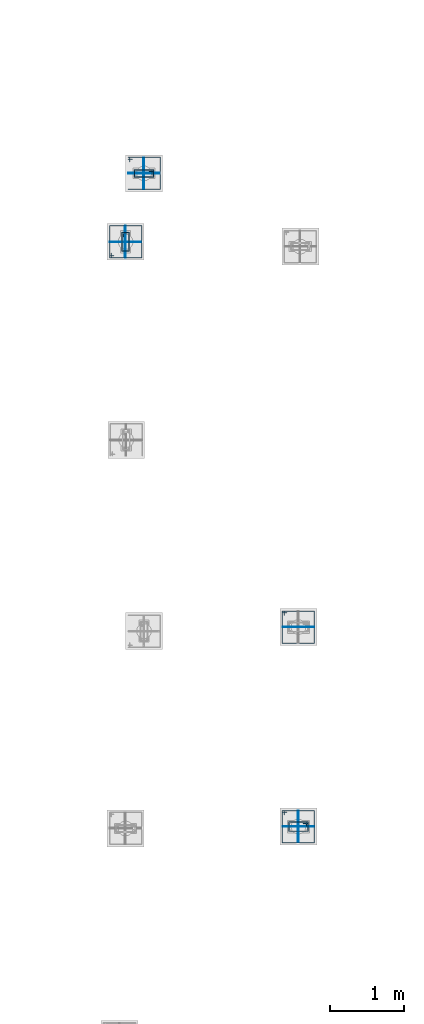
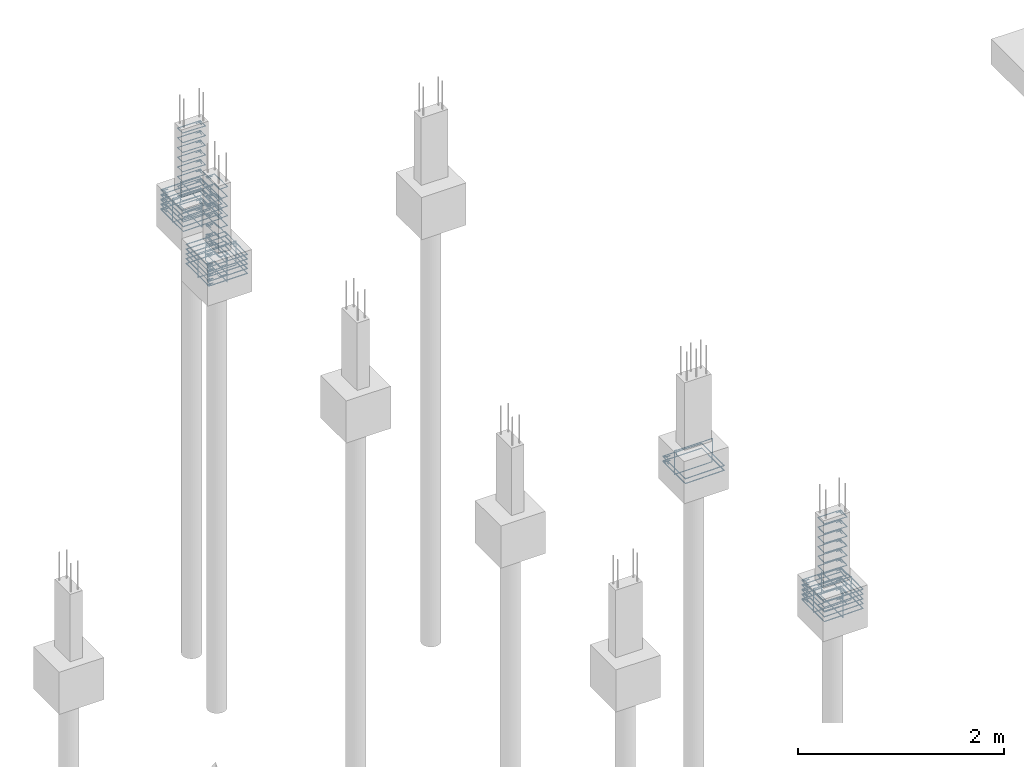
# One storey, part 113 of 119: 54 reinforcing bars.
"""IFC4 building model written with IfcOpenShell, lengths in centimetres."""

from ifc_helpers import new_model, entity, si_unit, derived_unit, frame, origin_with_axes, place, context, project, spatial, source, transform, mapped, element, save


model = new_model("IFC4")

# Units and contexts
model_context = context("Model", 3, precision=1e-05, world=origin_with_axes(), identifier="Body")
ifc_project = project(units=[si_unit("LENGTHUNIT", "METRE", prefix="CENTI"), si_unit("VOLUMEUNIT", "CUBIC_METRE"), si_unit("AREAUNIT", "SQUARE_METRE"), si_unit("POWERUNIT", "WATT"), si_unit("LUMINOUSFLUXUNIT", "LUMEN"), si_unit("ELECTRICCURRENTUNIT", "AMPERE"), si_unit("PRESSUREUNIT", "PASCAL", prefix="KILO"), si_unit("MASSUNIT", "GRAM", prefix="KILO"), si_unit("PLANEANGLEUNIT", "RADIAN"), derived_unit("VOLUMETRICFLOWRATEUNIT", [(si_unit("LENGTHUNIT", "METRE"), 3), (si_unit("TIMEUNIT", "SECOND"), -1)])], contexts=[model_context])

# Site, building, storey
site_placement = place(None, frame((-4000.0, 0.0, 0.0), z_axis=(0.0, 0.0, 1.0), x_axis=(1.0, 0.0, 0.0)))
site = spatial("IfcSite", under=ifc_project, at=site_placement, Name="PADRÃO")
building_placement = place(site_placement, frame((0.0, 0.0, -14.0)))
building = spatial("IfcBuilding", under=site, at=building_placement, Name="CRECHE PRÉ-ESCOLA TIPO 2")
storey_placement = place(building_placement, origin_with_axes())
storey = spatial("IfcBuildingStorey", under=building, at=storey_placement, Name="FUNDAÇÃO", CompositionType="ELEMENT", Elevation=-14.0)

# Reinforcing bars
shared_shape_1 = source(origin_with_axes(), model_context, "Body", "AdvancedSweptSolid", [
    entity("IfcSweptDiskSolid", entity("IfcCompositeCurve", [entity("IfcCompositeCurveSegment", "CONTINUOUS", True, entity("IfcPolyline", [entity("IfcCartesianPoint", [4.25, 21.75, 0.0]), entity("IfcCartesianPoint", [4.25, 27.75, 0.0])])), entity("IfcCompositeCurveSegment", "CONTINUOUS", True, entity("IfcPolyline", [entity("IfcCartesianPoint", [4.25, 27.75, 0.0]), entity("IfcCartesianPoint", [2.25, 27.75, 0.0])])), entity("IfcCompositeCurveSegment", "CONTINUOUS", True, entity("IfcPolyline", [entity("IfcCartesianPoint", [2.25, 27.75, 0.0]), entity("IfcCartesianPoint", [2.25, 2.25, 0.0])])), entity("IfcCompositeCurveSegment", "CONTINUOUS", True, entity("IfcPolyline", [entity("IfcCartesianPoint", [2.25, 2.25, 0.0]), entity("IfcCartesianPoint", [14.75, 2.25, 0.0])])), entity("IfcCompositeCurveSegment", "CONTINUOUS", True, entity("IfcPolyline", [entity("IfcCartesianPoint", [14.75, 2.25, 0.0]), entity("IfcCartesianPoint", [14.75, 27.75, -0.5])])), entity("IfcCompositeCurveSegment", "CONTINUOUS", True, entity("IfcPolyline", [entity("IfcCartesianPoint", [14.75, 27.75, -0.5]), entity("IfcCartesianPoint", [2.25, 27.75, -0.5])])), entity("IfcCompositeCurveSegment", "CONTINUOUS", True, entity("IfcPolyline", [entity("IfcCartesianPoint", [2.25, 27.75, -0.5]), entity("IfcCartesianPoint", [2.25, 25.75, -0.5])])), entity("IfcCompositeCurveSegment", "CONTINUOUS", True, entity("IfcPolyline", [entity("IfcCartesianPoint", [2.25, 25.75, -0.5]), entity("IfcCartesianPoint", [8.25, 25.75, -0.5])]))], False), 0.25),
])
for number, where, z_axis, x_axis, name in (
    (1, (3357.5, 3208.52, -51.75), (0.0, 0.0, 1.0), (0.0, -1.0, 0.0), "P56 - Estribo"),
    (2, (3357.5, 3208.52, -5.75), (0.0, 0.0, 1.0), (0.0, -1.0, 0.0), "P56 - Estribo"),
    (3, (3357.5, 3208.52, -17.25), (0.0, 0.0, 1.0), (0.0, -1.0, 0.0), "P56 - Estribo"),
    (4, (3357.5, 3208.52, -28.75), (0.0, 0.0, 1.0), (0.0, -1.0, 0.0), "P56 - Estribo"),
    (5, (3357.5, 3208.52, -40.25), (0.0, 0.0, 1.0), (0.0, -1.0, 0.0), "P56 - Estribo"),
    (6, (3357.5, 3208.52, -74.75), (0.0, 0.0, 1.0), (0.0, -1.0, 0.0), "P56 - Estribo"),
    (7, (3357.5, 3208.52, -63.25), (0.0, 0.0, 1.0), (0.0, -1.0, 0.0), "P56 - Estribo"),
    (8, (3357.5, 3208.52, -86.25), (0.0, 0.0, 1.0), (0.0, -1.0, 0.0), "P56 - Estribo"),
    (9, (3357.5, 3208.52, -97.75), (0.0, 0.0, 1.0), (0.0, -1.0, 0.0), "P56 - Estribo"),
    (10, (3357.5, 3208.52, -109.25), (0.0, 0.0, 1.0), (0.0, -1.0, 0.0), "P56 - Estribo"),
):
    element("IfcReinforcingBar", number, at=place(storey_placement, frame(where, z_axis=z_axis, x_axis=x_axis)), inside=storey, Name=name, BarLength=0.0, CrossSectionArea=1.9634954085e-05, NominalDiameter=0.5, PredefinedType="MAIN", context=model_context, shape_type="MappedRepresentation", body=[
        mapped(shared_shape_1, transform((0.0, 0.0, 0.0), scale=1.0)),
    ])
shared_shape_2 = source(origin_with_axes(), model_context, "Body", "AdvancedSweptSolid", [
    entity("IfcSweptDiskSolid", entity("IfcCompositeCurve", [entity("IfcCompositeCurveSegment", "CONTINUOUS", True, entity("IfcPolyline", [entity("IfcCartesianPoint", [3353.335, 3215.445, 0.0]), entity("IfcCartesianPoint", [3353.335, 3221.705, 0.0])])), entity("IfcCompositeCurveSegment", "CONTINUOUS", True, entity("IfcPolyline", [entity("IfcCartesianPoint", [3353.335, 3221.705, 0.0]), entity("IfcCartesianPoint", [3350.815, 3221.705, 0.0])])), entity("IfcCompositeCurveSegment", "CONTINUOUS", True, entity("IfcPolyline", [entity("IfcCartesianPoint", [3350.815, 3221.705, 0.0]), entity("IfcCartesianPoint", [3350.815, 3178.335, 0.0])])), entity("IfcCompositeCurveSegment", "CONTINUOUS", True, entity("IfcPolyline", [entity("IfcCartesianPoint", [3350.815, 3178.335, 0.0]), entity("IfcCartesianPoint", [3394.185, 3178.335, 0.63])])), entity("IfcCompositeCurveSegment", "CONTINUOUS", True, entity("IfcPolyline", [entity("IfcCartesianPoint", [3394.185, 3178.335, 0.63]), entity("IfcCartesianPoint", [3394.185, 3221.705, 0.63])])), entity("IfcCompositeCurveSegment", "CONTINUOUS", True, entity("IfcPolyline", [entity("IfcCartesianPoint", [3394.185, 3221.705, 0.63]), entity("IfcCartesianPoint", [3350.815, 3221.705, 0.63])])), entity("IfcCompositeCurveSegment", "CONTINUOUS", True, entity("IfcPolyline", [entity("IfcCartesianPoint", [3350.815, 3221.705, 0.63]), entity("IfcCartesianPoint", [3350.815, 3219.185, 0.63])])), entity("IfcCompositeCurveSegment", "CONTINUOUS", True, entity("IfcPolyline", [entity("IfcCartesianPoint", [3350.815, 3219.185, 0.63]), entity("IfcCartesianPoint", [3357.075, 3219.185, 0.63])]))], False), 0.315),
])
for number, where, z_axis, x_axis, name in (
    (11, (0.0, 0.0, -86.575), (0.0, 0.0, 1.0), (1.0, 0.0, 0.0), "P56 - Blocos (estribos)"),
    (12, (0.0, 0.0, -92.225), (0.0, 0.0, 1.0), (1.0, 0.0, 0.0), "P56 - Blocos (estribos)"),
    (13, (0.0, 0.0, -97.875), (0.0, 0.0, 1.0), (1.0, 0.0, 0.0), "P56 - Blocos (estribos)"),
    (14, (0.0, 0.0, -109.175), (0.0, 0.0, 1.0), (1.0, 0.0, 0.0), "P56 - Blocos (estribos)"),
    (15, (0.0, 0.0, -103.525), (0.0, 0.0, 1.0), (1.0, 0.0, 0.0), "P56 - Blocos (estribos)"),
):
    element("IfcReinforcingBar", number, at=place(storey_placement, frame(where, z_axis=z_axis, x_axis=x_axis)), inside=storey, Name=name, BarLength=0.0, CrossSectionArea=3.1172453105e-05, NominalDiameter=0.63, PredefinedType="MAIN", context=model_context, shape_type="MappedRepresentation", body=[
        mapped(shared_shape_2, transform((0.0, 0.0, 0.0), scale=1.0)),
    ])
shared_shape_3 = source(origin_with_axes(), model_context, "Body", "AdvancedSweptSolid", [
    entity("IfcSweptDiskSolid", entity("IfcCompositeCurve", [entity("IfcCompositeCurveSegment", "CONTINUOUS", True, entity("IfcPolyline", [entity("IfcCartesianPoint", [-15.12, -12.0, 0.0]), entity("IfcCartesianPoint", [-21.12, -12.0, 0.0])])), entity("IfcCompositeCurveSegment", "CONTINUOUS", True, entity("IfcPolyline", [entity("IfcCartesianPoint", [-21.12, -12.0, 0.0]), entity("IfcCartesianPoint", [-21.12, -14.0, 0.0])])), entity("IfcCompositeCurveSegment", "CONTINUOUS", True, entity("IfcPolyline", [entity("IfcCartesianPoint", [-21.12, -14.0, 0.0]), entity("IfcCartesianPoint", [21.12, -14.0, 0.0])])), entity("IfcCompositeCurveSegment", "CONTINUOUS", True, entity("IfcPolyline", [entity("IfcCartesianPoint", [21.12, -14.0, 0.0]), entity("IfcCartesianPoint", [21.12, 14.0, 0.5])])), entity("IfcCompositeCurveSegment", "CONTINUOUS", True, entity("IfcPolyline", [entity("IfcCartesianPoint", [21.12, 14.0, 0.5]), entity("IfcCartesianPoint", [-21.12, 14.0, 0.5])])), entity("IfcCompositeCurveSegment", "CONTINUOUS", True, entity("IfcPolyline", [entity("IfcCartesianPoint", [-21.12, 14.0, 0.5]), entity("IfcCartesianPoint", [-21.12, -14.0, 0.5])])), entity("IfcCompositeCurveSegment", "CONTINUOUS", True, entity("IfcPolyline", [entity("IfcCartesianPoint", [-21.12, -14.0, 0.5]), entity("IfcCartesianPoint", [-19.12, -14.0, 0.5])])), entity("IfcCompositeCurveSegment", "CONTINUOUS", True, entity("IfcPolyline", [entity("IfcCartesianPoint", [-19.12, -14.0, 0.5]), entity("IfcCartesianPoint", [-19.12, -8.0, 0.5])]))], False), 0.25),
])
reinforcing_bar_1_placement = place(storey_placement, frame((3372.5, 3200.02, -97.75), z_axis=(0.0, 1.0, 0.0), x_axis=(1.0, 0.0, 0.0)))
element("IfcReinforcingBar", 16, at=reinforcing_bar_1_placement, inside=storey, Name="P56 - Blocos (estribos)", BarLength=0.0, CrossSectionArea=1.9634954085e-05, NominalDiameter=0.5, PredefinedType="MAIN", context=model_context, shape_type="MappedRepresentation", body=[
    mapped(shared_shape_3, transform((0.0, 0.0, 0.0), scale=1.0)),
])
shared_shape_4 = source(origin_with_axes(), model_context, "Body", "AdvancedSweptSolid", [
    entity("IfcSweptDiskSolid", entity("IfcCompositeCurve", [entity("IfcCompositeCurveSegment", "CONTINUOUS", True, entity("IfcPolyline", [entity("IfcCartesianPoint", [-15.12, -12.0, 0.0]), entity("IfcCartesianPoint", [-21.12, -12.0, 0.0])])), entity("IfcCompositeCurveSegment", "CONTINUOUS", True, entity("IfcPolyline", [entity("IfcCartesianPoint", [-21.12, -12.0, 0.0]), entity("IfcCartesianPoint", [-21.12, -14.0, 0.0])])), entity("IfcCompositeCurveSegment", "CONTINUOUS", True, entity("IfcPolyline", [entity("IfcCartesianPoint", [-21.12, -14.0, 0.0]), entity("IfcCartesianPoint", [21.12, -14.0, 0.0])])), entity("IfcCompositeCurveSegment", "CONTINUOUS", True, entity("IfcPolyline", [entity("IfcCartesianPoint", [21.12, -14.0, 0.0]), entity("IfcCartesianPoint", [21.12, 14.0, 0.5])])), entity("IfcCompositeCurveSegment", "CONTINUOUS", True, entity("IfcPolyline", [entity("IfcCartesianPoint", [21.12, 14.0, 0.5]), entity("IfcCartesianPoint", [-21.12, 14.0, 0.5])])), entity("IfcCompositeCurveSegment", "CONTINUOUS", True, entity("IfcPolyline", [entity("IfcCartesianPoint", [-21.12, 14.0, 0.5]), entity("IfcCartesianPoint", [-21.12, -14.0, 0.5])])), entity("IfcCompositeCurveSegment", "CONTINUOUS", True, entity("IfcPolyline", [entity("IfcCartesianPoint", [-21.12, -14.0, 0.5]), entity("IfcCartesianPoint", [-19.12, -14.0, 0.5])])), entity("IfcCompositeCurveSegment", "CONTINUOUS", True, entity("IfcPolyline", [entity("IfcCartesianPoint", [-19.12, -14.0, 0.5]), entity("IfcCartesianPoint", [-19.12, -8.0, 0.5])]))], False), 0.25),
])
reinforcing_bar_2_placement = place(storey_placement, frame((3372.5, 3200.02, -97.75), z_axis=(-1.0, 0.0, 0.0), x_axis=(0.0, 1.0, 0.0)))
element("IfcReinforcingBar", 17, at=reinforcing_bar_2_placement, inside=storey, Name="P56 - Blocos (estribos)", BarLength=0.0, CrossSectionArea=1.9634954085e-05, NominalDiameter=0.5, PredefinedType="MAIN", context=model_context, shape_type="MappedRepresentation", body=[
    mapped(shared_shape_4, transform((0.0, 0.0, 0.0), scale=1.0)),
])
shared_shape_5 = source(origin_with_axes(), model_context, "Body", "AdvancedSweptSolid", [
    entity("IfcSweptDiskSolid", entity("IfcCompositeCurve", [entity("IfcCompositeCurveSegment", "CONTINUOUS", True, entity("IfcPolyline", [entity("IfcCartesianPoint", [3353.335, 3485.445, 0.0]), entity("IfcCartesianPoint", [3353.335, 3491.705, 0.0])])), entity("IfcCompositeCurveSegment", "CONTINUOUS", True, entity("IfcPolyline", [entity("IfcCartesianPoint", [3353.335, 3491.705, 0.0]), entity("IfcCartesianPoint", [3350.815, 3491.705, 0.0])])), entity("IfcCompositeCurveSegment", "CONTINUOUS", True, entity("IfcPolyline", [entity("IfcCartesianPoint", [3350.815, 3491.705, 0.0]), entity("IfcCartesianPoint", [3350.815, 3448.335, 0.0])])), entity("IfcCompositeCurveSegment", "CONTINUOUS", True, entity("IfcPolyline", [entity("IfcCartesianPoint", [3350.815, 3448.335, 0.0]), entity("IfcCartesianPoint", [3394.185, 3448.335, 0.63])])), entity("IfcCompositeCurveSegment", "CONTINUOUS", True, entity("IfcPolyline", [entity("IfcCartesianPoint", [3394.185, 3448.335, 0.63]), entity("IfcCartesianPoint", [3394.185, 3491.705, 0.63])])), entity("IfcCompositeCurveSegment", "CONTINUOUS", True, entity("IfcPolyline", [entity("IfcCartesianPoint", [3394.185, 3491.705, 0.63]), entity("IfcCartesianPoint", [3350.815, 3491.705, 0.63])])), entity("IfcCompositeCurveSegment", "CONTINUOUS", True, entity("IfcPolyline", [entity("IfcCartesianPoint", [3350.815, 3491.705, 0.63]), entity("IfcCartesianPoint", [3350.815, 3489.185, 0.63])])), entity("IfcCompositeCurveSegment", "CONTINUOUS", True, entity("IfcPolyline", [entity("IfcCartesianPoint", [3350.815, 3489.185, 0.63]), entity("IfcCartesianPoint", [3357.075, 3489.185, 0.63])]))], False), 0.315),
])
for number, where, z_axis, x_axis, name in (
    (18, (0.0, 0.0, -103.525), (0.0, 0.0, 1.0), (1.0, 0.0, 0.0), "P45 - Blocos (estribos)"),
    (19, (0.0, 0.0, -109.175), (0.0, 0.0, 1.0), (1.0, 0.0, 0.0), "P45 - Blocos (estribos)"),
):
    element("IfcReinforcingBar", number, at=place(storey_placement, frame(where, z_axis=z_axis, x_axis=x_axis)), inside=storey, Name=name, BarLength=0.0, CrossSectionArea=3.1172453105e-05, NominalDiameter=0.63, PredefinedType="MAIN", context=model_context, shape_type="MappedRepresentation", body=[
        mapped(shared_shape_5, transform((0.0, 0.0, 0.0), scale=1.0)),
    ])
shared_shape_6 = source(origin_with_axes(), model_context, "Body", "AdvancedSweptSolid", [
    entity("IfcSweptDiskSolid", entity("IfcCompositeCurve", [entity("IfcCompositeCurveSegment", "CONTINUOUS", True, entity("IfcPolyline", [entity("IfcCartesianPoint", [-15.12, -12.0, 0.0]), entity("IfcCartesianPoint", [-21.12, -12.0, 0.0])])), entity("IfcCompositeCurveSegment", "CONTINUOUS", True, entity("IfcPolyline", [entity("IfcCartesianPoint", [-21.12, -12.0, 0.0]), entity("IfcCartesianPoint", [-21.12, -14.0, 0.0])])), entity("IfcCompositeCurveSegment", "CONTINUOUS", True, entity("IfcPolyline", [entity("IfcCartesianPoint", [-21.12, -14.0, 0.0]), entity("IfcCartesianPoint", [21.12, -14.0, 0.0])])), entity("IfcCompositeCurveSegment", "CONTINUOUS", True, entity("IfcPolyline", [entity("IfcCartesianPoint", [21.12, -14.0, 0.0]), entity("IfcCartesianPoint", [21.12, 14.0, 0.5])])), entity("IfcCompositeCurveSegment", "CONTINUOUS", True, entity("IfcPolyline", [entity("IfcCartesianPoint", [21.12, 14.0, 0.5]), entity("IfcCartesianPoint", [-21.12, 14.0, 0.5])])), entity("IfcCompositeCurveSegment", "CONTINUOUS", True, entity("IfcPolyline", [entity("IfcCartesianPoint", [-21.12, 14.0, 0.5]), entity("IfcCartesianPoint", [-21.12, -14.0, 0.5])])), entity("IfcCompositeCurveSegment", "CONTINUOUS", True, entity("IfcPolyline", [entity("IfcCartesianPoint", [-21.12, -14.0, 0.5]), entity("IfcCartesianPoint", [-19.12, -14.0, 0.5])])), entity("IfcCompositeCurveSegment", "CONTINUOUS", True, entity("IfcPolyline", [entity("IfcCartesianPoint", [-19.12, -14.0, 0.5]), entity("IfcCartesianPoint", [-19.12, -8.0, 0.5])]))], False), 0.25),
])
reinforcing_bar_3_placement = place(storey_placement, frame((3372.5, 3470.02, -97.75), z_axis=(0.0, 1.0, 0.0), x_axis=(1.0, 0.0, 0.0)))
element("IfcReinforcingBar", 20, at=reinforcing_bar_3_placement, inside=storey, Name="P45 - Blocos (estribos)", BarLength=0.0, CrossSectionArea=1.9634954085e-05, NominalDiameter=0.5, PredefinedType="MAIN", context=model_context, shape_type="MappedRepresentation", body=[
    mapped(shared_shape_6, transform((0.0, 0.0, 0.0), scale=1.0)),
])
shared_shape_7 = source(origin_with_axes(), model_context, "Body", "AdvancedSweptSolid", [
    entity("IfcSweptDiskSolid", entity("IfcCompositeCurve", [entity("IfcCompositeCurveSegment", "CONTINUOUS", True, entity("IfcPolyline", [entity("IfcCartesianPoint", [4.25, 21.75, 0.0]), entity("IfcCartesianPoint", [4.25, 27.75, 0.0])])), entity("IfcCompositeCurveSegment", "CONTINUOUS", True, entity("IfcPolyline", [entity("IfcCartesianPoint", [4.25, 27.75, 0.0]), entity("IfcCartesianPoint", [2.25, 27.75, 0.0])])), entity("IfcCompositeCurveSegment", "CONTINUOUS", True, entity("IfcPolyline", [entity("IfcCartesianPoint", [2.25, 27.75, 0.0]), entity("IfcCartesianPoint", [2.25, 2.25, 0.0])])), entity("IfcCompositeCurveSegment", "CONTINUOUS", True, entity("IfcPolyline", [entity("IfcCartesianPoint", [2.25, 2.25, 0.0]), entity("IfcCartesianPoint", [11.75, 2.25, 0.0])])), entity("IfcCompositeCurveSegment", "CONTINUOUS", True, entity("IfcPolyline", [entity("IfcCartesianPoint", [11.75, 2.25, 0.0]), entity("IfcCartesianPoint", [11.75, 27.75, -0.5])])), entity("IfcCompositeCurveSegment", "CONTINUOUS", True, entity("IfcPolyline", [entity("IfcCartesianPoint", [11.75, 27.75, -0.5]), entity("IfcCartesianPoint", [2.25, 27.75, -0.5])])), entity("IfcCompositeCurveSegment", "CONTINUOUS", True, entity("IfcPolyline", [entity("IfcCartesianPoint", [2.25, 27.75, -0.5]), entity("IfcCartesianPoint", [2.25, 25.75, -0.5])])), entity("IfcCompositeCurveSegment", "CONTINUOUS", True, entity("IfcPolyline", [entity("IfcCartesianPoint", [2.25, 25.75, -0.5]), entity("IfcCartesianPoint", [8.25, 25.75, -0.5])]))], False), 0.25),
])
for number, where, z_axis, x_axis, name in (
    (21, (3148.5, 4091.02, -74.75), (0.0, 0.0, 1.0), (0.0, -1.0, 0.0), "P22 - Estribo"),
    (22, (3148.5, 4091.02, -51.75), (0.0, 0.0, 1.0), (0.0, -1.0, 0.0), "P22 - Estribo"),
    (23, (3148.5, 4091.02, -40.25), (0.0, 0.0, 1.0), (0.0, -1.0, 0.0), "P22 - Estribo"),
    (24, (3148.5, 4091.02, -86.25), (0.0, 0.0, 1.0), (0.0, -1.0, 0.0), "P22 - Estribo"),
    (25, (3148.5, 4091.02, -97.75), (0.0, 0.0, 1.0), (0.0, -1.0, 0.0), "P22 - Estribo"),
    (26, (3148.5, 4091.02, -109.25), (0.0, 0.0, 1.0), (0.0, -1.0, 0.0), "P22 - Estribo"),
    (27, (3148.5, 4091.02, -63.25), (0.0, 0.0, 1.0), (0.0, -1.0, 0.0), "P22 - Estribo"),
    (28, (3148.5, 4091.02, -5.75), (0.0, 0.0, 1.0), (0.0, -1.0, 0.0), "P22 - Estribo"),
    (29, (3148.5, 4091.02, -17.25), (0.0, 0.0, 1.0), (0.0, -1.0, 0.0), "P22 - Estribo"),
    (30, (3148.5, 4091.02, -28.75), (0.0, 0.0, 1.0), (0.0, -1.0, 0.0), "P22 - Estribo"),
):
    element("IfcReinforcingBar", number, at=place(storey_placement, frame(where, z_axis=z_axis, x_axis=x_axis)), inside=storey, Name=name, BarLength=0.0, CrossSectionArea=1.9634954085e-05, NominalDiameter=0.5, PredefinedType="MAIN", context=model_context, shape_type="MappedRepresentation", body=[
        mapped(shared_shape_7, transform((0.0, 0.0, 0.0), scale=1.0)),
    ])
shared_shape_8 = source(origin_with_axes(), model_context, "Body", "AdvancedSweptSolid", [
    entity("IfcSweptDiskSolid", entity("IfcCompositeCurve", [entity("IfcCompositeCurveSegment", "CONTINUOUS", True, entity("IfcPolyline", [entity("IfcCartesianPoint", [3144.335, 4099.445, 0.0]), entity("IfcCartesianPoint", [3144.335, 4105.705, 0.0])])), entity("IfcCompositeCurveSegment", "CONTINUOUS", True, entity("IfcPolyline", [entity("IfcCartesianPoint", [3144.335, 4105.705, 0.0]), entity("IfcCartesianPoint", [3141.815, 4105.705, 0.0])])), entity("IfcCompositeCurveSegment", "CONTINUOUS", True, entity("IfcPolyline", [entity("IfcCartesianPoint", [3141.815, 4105.705, 0.0]), entity("IfcCartesianPoint", [3141.815, 4062.335, 0.0])])), entity("IfcCompositeCurveSegment", "CONTINUOUS", True, entity("IfcPolyline", [entity("IfcCartesianPoint", [3141.815, 4062.335, 0.0]), entity("IfcCartesianPoint", [3185.185, 4062.335, 0.63])])), entity("IfcCompositeCurveSegment", "CONTINUOUS", True, entity("IfcPolyline", [entity("IfcCartesianPoint", [3185.185, 4062.335, 0.63]), entity("IfcCartesianPoint", [3185.185, 4105.705, 0.63])])), entity("IfcCompositeCurveSegment", "CONTINUOUS", True, entity("IfcPolyline", [entity("IfcCartesianPoint", [3185.185, 4105.705, 0.63]), entity("IfcCartesianPoint", [3141.815, 4105.705, 0.63])])), entity("IfcCompositeCurveSegment", "CONTINUOUS", True, entity("IfcPolyline", [entity("IfcCartesianPoint", [3141.815, 4105.705, 0.63]), entity("IfcCartesianPoint", [3141.815, 4103.185, 0.63])])), entity("IfcCompositeCurveSegment", "CONTINUOUS", True, entity("IfcPolyline", [entity("IfcCartesianPoint", [3141.815, 4103.185, 0.63]), entity("IfcCartesianPoint", [3148.075, 4103.185, 0.63])]))], False), 0.315),
])
for number, where, z_axis, x_axis, name in (
    (31, (0.0, 0.0, -86.575), (0.0, 0.0, 1.0), (1.0, 0.0, 0.0), "P22 - Blocos (estribos)"),
    (32, (0.0, 0.0, -92.225), (0.0, 0.0, 1.0), (1.0, 0.0, 0.0), "P22 - Blocos (estribos)"),
    (33, (0.0, 0.0, -97.875), (0.0, 0.0, 1.0), (1.0, 0.0, 0.0), "P22 - Blocos (estribos)"),
    (34, (0.0, 0.0, -103.525), (0.0, 0.0, 1.0), (1.0, 0.0, 0.0), "P22 - Blocos (estribos)"),
    (35, (0.0, 0.0, -109.175), (0.0, 0.0, 1.0), (1.0, 0.0, 0.0), "P22 - Blocos (estribos)"),
):
    element("IfcReinforcingBar", number, at=place(storey_placement, frame(where, z_axis=z_axis, x_axis=x_axis)), inside=storey, Name=name, BarLength=0.0, CrossSectionArea=3.1172453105e-05, NominalDiameter=0.63, PredefinedType="MAIN", context=model_context, shape_type="MappedRepresentation", body=[
        mapped(shared_shape_8, transform((0.0, 0.0, 0.0), scale=1.0)),
    ])
shared_shape_9 = source(origin_with_axes(), model_context, "Body", "AdvancedSweptSolid", [
    entity("IfcSweptDiskSolid", entity("IfcCompositeCurve", [entity("IfcCompositeCurveSegment", "CONTINUOUS", True, entity("IfcPolyline", [entity("IfcCartesianPoint", [-15.12, -12.0, 0.0]), entity("IfcCartesianPoint", [-21.12, -12.0, 0.0])])), entity("IfcCompositeCurveSegment", "CONTINUOUS", True, entity("IfcPolyline", [entity("IfcCartesianPoint", [-21.12, -12.0, 0.0]), entity("IfcCartesianPoint", [-21.12, -14.0, 0.0])])), entity("IfcCompositeCurveSegment", "CONTINUOUS", True, entity("IfcPolyline", [entity("IfcCartesianPoint", [-21.12, -14.0, 0.0]), entity("IfcCartesianPoint", [21.12, -14.0, 0.0])])), entity("IfcCompositeCurveSegment", "CONTINUOUS", True, entity("IfcPolyline", [entity("IfcCartesianPoint", [21.12, -14.0, 0.0]), entity("IfcCartesianPoint", [21.12, 14.0, 0.5])])), entity("IfcCompositeCurveSegment", "CONTINUOUS", True, entity("IfcPolyline", [entity("IfcCartesianPoint", [21.12, 14.0, 0.5]), entity("IfcCartesianPoint", [-21.12, 14.0, 0.5])])), entity("IfcCompositeCurveSegment", "CONTINUOUS", True, entity("IfcPolyline", [entity("IfcCartesianPoint", [-21.12, 14.0, 0.5]), entity("IfcCartesianPoint", [-21.12, -14.0, 0.5])])), entity("IfcCompositeCurveSegment", "CONTINUOUS", True, entity("IfcPolyline", [entity("IfcCartesianPoint", [-21.12, -14.0, 0.5]), entity("IfcCartesianPoint", [-19.12, -14.0, 0.5])])), entity("IfcCompositeCurveSegment", "CONTINUOUS", True, entity("IfcPolyline", [entity("IfcCartesianPoint", [-19.12, -14.0, 0.5]), entity("IfcCartesianPoint", [-19.12, -8.0, 0.5])]))], False), 0.25),
])
reinforcing_bar_4_placement = place(storey_placement, frame((3163.5, 4084.02, -97.75), z_axis=(0.0, 1.0, 0.0), x_axis=(1.0, 0.0, 0.0)))
element("IfcReinforcingBar", 36, at=reinforcing_bar_4_placement, inside=storey, Name="P22 - Blocos (estribos)", BarLength=0.0, CrossSectionArea=1.9634954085e-05, NominalDiameter=0.5, PredefinedType="MAIN", context=model_context, shape_type="MappedRepresentation", body=[
    mapped(shared_shape_9, transform((0.0, 0.0, 0.0), scale=1.0)),
])
shared_shape_10 = source(origin_with_axes(), model_context, "Body", "AdvancedSweptSolid", [
    entity("IfcSweptDiskSolid", entity("IfcCompositeCurve", [entity("IfcCompositeCurveSegment", "CONTINUOUS", True, entity("IfcPolyline", [entity("IfcCartesianPoint", [-15.12, -12.0, 0.0]), entity("IfcCartesianPoint", [-21.12, -12.0, 0.0])])), entity("IfcCompositeCurveSegment", "CONTINUOUS", True, entity("IfcPolyline", [entity("IfcCartesianPoint", [-21.12, -12.0, 0.0]), entity("IfcCartesianPoint", [-21.12, -14.0, 0.0])])), entity("IfcCompositeCurveSegment", "CONTINUOUS", True, entity("IfcPolyline", [entity("IfcCartesianPoint", [-21.12, -14.0, 0.0]), entity("IfcCartesianPoint", [21.12, -14.0, 0.0])])), entity("IfcCompositeCurveSegment", "CONTINUOUS", True, entity("IfcPolyline", [entity("IfcCartesianPoint", [21.12, -14.0, 0.0]), entity("IfcCartesianPoint", [21.12, 14.0, 0.5])])), entity("IfcCompositeCurveSegment", "CONTINUOUS", True, entity("IfcPolyline", [entity("IfcCartesianPoint", [21.12, 14.0, 0.5]), entity("IfcCartesianPoint", [-21.12, 14.0, 0.5])])), entity("IfcCompositeCurveSegment", "CONTINUOUS", True, entity("IfcPolyline", [entity("IfcCartesianPoint", [-21.12, 14.0, 0.5]), entity("IfcCartesianPoint", [-21.12, -14.0, 0.5])])), entity("IfcCompositeCurveSegment", "CONTINUOUS", True, entity("IfcPolyline", [entity("IfcCartesianPoint", [-21.12, -14.0, 0.5]), entity("IfcCartesianPoint", [-19.12, -14.0, 0.5])])), entity("IfcCompositeCurveSegment", "CONTINUOUS", True, entity("IfcPolyline", [entity("IfcCartesianPoint", [-19.12, -14.0, 0.5]), entity("IfcCartesianPoint", [-19.12, -8.0, 0.5])]))], False), 0.25),
])
reinforcing_bar_5_placement = place(storey_placement, frame((3163.5, 4084.02, -97.75), z_axis=(-1.0, 0.0, 0.0), x_axis=(0.0, 1.0, 0.0)))
element("IfcReinforcingBar", 37, at=reinforcing_bar_5_placement, inside=storey, Name="P22 - Blocos (estribos)", BarLength=0.0, CrossSectionArea=1.9634954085e-05, NominalDiameter=0.5, PredefinedType="MAIN", context=model_context, shape_type="MappedRepresentation", body=[
    mapped(shared_shape_10, transform((0.0, 0.0, 0.0), scale=1.0)),
])
shared_shape_11 = source(origin_with_axes(), model_context, "Body", "AdvancedSweptSolid", [
    entity("IfcSweptDiskSolid", entity("IfcCompositeCurve", [entity("IfcCompositeCurveSegment", "CONTINUOUS", True, entity("IfcPolyline", [entity("IfcCartesianPoint", [4.25, 21.75, 0.0]), entity("IfcCartesianPoint", [4.25, 27.75, 0.0])])), entity("IfcCompositeCurveSegment", "CONTINUOUS", True, entity("IfcPolyline", [entity("IfcCartesianPoint", [4.25, 27.75, 0.0]), entity("IfcCartesianPoint", [2.25, 27.75, 0.0])])), entity("IfcCompositeCurveSegment", "CONTINUOUS", True, entity("IfcPolyline", [entity("IfcCartesianPoint", [2.25, 27.75, 0.0]), entity("IfcCartesianPoint", [2.25, 2.25, 0.0])])), entity("IfcCompositeCurveSegment", "CONTINUOUS", True, entity("IfcPolyline", [entity("IfcCartesianPoint", [2.25, 2.25, 0.0]), entity("IfcCartesianPoint", [11.75, 2.25, 0.0])])), entity("IfcCompositeCurveSegment", "CONTINUOUS", True, entity("IfcPolyline", [entity("IfcCartesianPoint", [11.75, 2.25, 0.0]), entity("IfcCartesianPoint", [11.75, 27.75, -0.5])])), entity("IfcCompositeCurveSegment", "CONTINUOUS", True, entity("IfcPolyline", [entity("IfcCartesianPoint", [11.75, 27.75, -0.5]), entity("IfcCartesianPoint", [2.25, 27.75, -0.5])])), entity("IfcCompositeCurveSegment", "CONTINUOUS", True, entity("IfcPolyline", [entity("IfcCartesianPoint", [2.25, 27.75, -0.5]), entity("IfcCartesianPoint", [2.25, 25.75, -0.5])])), entity("IfcCompositeCurveSegment", "CONTINUOUS", True, entity("IfcPolyline", [entity("IfcCartesianPoint", [2.25, 25.75, -0.5]), entity("IfcCartesianPoint", [8.25, 25.75, -0.5])]))], False), 0.25),
])
for number, where, z_axis, x_axis, name in (
    (38, (3131.5, 3976.51, -17.25), (0.0, 0.0, 1.0), (1.0, 0.0, 0.0), "P27 - Estribo"),
    (39, (3131.5, 3976.51, -97.75), (0.0, 0.0, 1.0), (1.0, 0.0, 0.0), "P27 - Estribo"),
    (40, (3131.5, 3976.51, -63.25), (0.0, 0.0, 1.0), (1.0, 0.0, 0.0), "P27 - Estribo"),
    (41, (3131.5, 3976.51, -109.25), (0.0, 0.0, 1.0), (1.0, 0.0, 0.0), "P27 - Estribo"),
    (42, (3131.5, 3976.51, -86.25), (0.0, 0.0, 1.0), (1.0, 0.0, 0.0), "P27 - Estribo"),
    (43, (3131.5, 3976.51, -51.75), (0.0, 0.0, 1.0), (1.0, 0.0, 0.0), "P27 - Estribo"),
    (44, (3131.5, 3976.51, -40.25), (0.0, 0.0, 1.0), (1.0, 0.0, 0.0), "P27 - Estribo"),
    (45, (3131.5, 3976.51, -28.75), (0.0, 0.0, 1.0), (1.0, 0.0, 0.0), "P27 - Estribo"),
    (46, (3131.5, 3976.51, -74.75), (0.0, 0.0, 1.0), (1.0, 0.0, 0.0), "P27 - Estribo"),
    (47, (3131.5, 3976.51, -5.75), (0.0, 0.0, 1.0), (1.0, 0.0, 0.0), "P27 - Estribo"),
):
    element("IfcReinforcingBar", number, at=place(storey_placement, frame(where, z_axis=z_axis, x_axis=x_axis)), inside=storey, Name=name, BarLength=0.0, CrossSectionArea=1.9634954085e-05, NominalDiameter=0.5, PredefinedType="MAIN", context=model_context, shape_type="MappedRepresentation", body=[
        mapped(shared_shape_11, transform((0.0, 0.0, 0.0), scale=1.0)),
    ])
shared_shape_12 = source(origin_with_axes(), model_context, "Body", "AdvancedSweptSolid", [
    entity("IfcSweptDiskSolid", entity("IfcCompositeCurve", [entity("IfcCompositeCurveSegment", "CONTINUOUS", True, entity("IfcPolyline", [entity("IfcCartesianPoint", [3123.075, 3972.345, 0.0]), entity("IfcCartesianPoint", [3116.815, 3972.345, 0.0])])), entity("IfcCompositeCurveSegment", "CONTINUOUS", True, entity("IfcPolyline", [entity("IfcCartesianPoint", [3116.815, 3972.345, 0.0]), entity("IfcCartesianPoint", [3116.815, 3969.825, 0.0])])), entity("IfcCompositeCurveSegment", "CONTINUOUS", True, entity("IfcPolyline", [entity("IfcCartesianPoint", [3116.815, 3969.825, 0.0]), entity("IfcCartesianPoint", [3160.185, 3969.825, 0.0])])), entity("IfcCompositeCurveSegment", "CONTINUOUS", True, entity("IfcPolyline", [entity("IfcCartesianPoint", [3160.185, 3969.825, 0.0]), entity("IfcCartesianPoint", [3160.185, 4013.195, 0.63])])), entity("IfcCompositeCurveSegment", "CONTINUOUS", True, entity("IfcPolyline", [entity("IfcCartesianPoint", [3160.185, 4013.195, 0.63]), entity("IfcCartesianPoint", [3116.815, 4013.195, 0.63])])), entity("IfcCompositeCurveSegment", "CONTINUOUS", True, entity("IfcPolyline", [entity("IfcCartesianPoint", [3116.815, 4013.195, 0.63]), entity("IfcCartesianPoint", [3116.815, 3969.825, 0.63])])), entity("IfcCompositeCurveSegment", "CONTINUOUS", True, entity("IfcPolyline", [entity("IfcCartesianPoint", [3116.815, 3969.825, 0.63]), entity("IfcCartesianPoint", [3119.335, 3969.825, 0.63])])), entity("IfcCompositeCurveSegment", "CONTINUOUS", True, entity("IfcPolyline", [entity("IfcCartesianPoint", [3119.335, 3969.825, 0.63]), entity("IfcCartesianPoint", [3119.335, 3976.085, 0.63])]))], False), 0.315),
])
for number, where, z_axis, x_axis, name in (
    (48, (0.0, 0.0, -109.175), (0.0, 0.0, 1.0), (1.0, 0.0, 0.0), "P27 - Blocos (estribos)"),
    (49, (0.0, 0.0, -103.525), (0.0, 0.0, 1.0), (1.0, 0.0, 0.0), "P27 - Blocos (estribos)"),
    (50, (0.0, 0.0, -97.875), (0.0, 0.0, 1.0), (1.0, 0.0, 0.0), "P27 - Blocos (estribos)"),
    (51, (0.0, 0.0, -92.225), (0.0, 0.0, 1.0), (1.0, 0.0, 0.0), "P27 - Blocos (estribos)"),
    (52, (0.0, 0.0, -86.575), (0.0, 0.0, 1.0), (1.0, 0.0, 0.0), "P27 - Blocos (estribos)"),
):
    element("IfcReinforcingBar", number, at=place(storey_placement, frame(where, z_axis=z_axis, x_axis=x_axis)), inside=storey, Name=name, BarLength=0.0, CrossSectionArea=3.1172453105e-05, NominalDiameter=0.63, PredefinedType="MAIN", context=model_context, shape_type="MappedRepresentation", body=[
        mapped(shared_shape_12, transform((0.0, 0.0, 0.0), scale=1.0)),
    ])
shared_shape_13 = source(origin_with_axes(), model_context, "Body", "AdvancedSweptSolid", [
    entity("IfcSweptDiskSolid", entity("IfcCompositeCurve", [entity("IfcCompositeCurveSegment", "CONTINUOUS", True, entity("IfcPolyline", [entity("IfcCartesianPoint", [-15.12, -12.0, 0.0]), entity("IfcCartesianPoint", [-21.12, -12.0, 0.0])])), entity("IfcCompositeCurveSegment", "CONTINUOUS", True, entity("IfcPolyline", [entity("IfcCartesianPoint", [-21.12, -12.0, 0.0]), entity("IfcCartesianPoint", [-21.12, -14.0, 0.0])])), entity("IfcCompositeCurveSegment", "CONTINUOUS", True, entity("IfcPolyline", [entity("IfcCartesianPoint", [-21.12, -14.0, 0.0]), entity("IfcCartesianPoint", [21.12, -14.0, 0.0])])), entity("IfcCompositeCurveSegment", "CONTINUOUS", True, entity("IfcPolyline", [entity("IfcCartesianPoint", [21.12, -14.0, 0.0]), entity("IfcCartesianPoint", [21.12, 14.0, 0.5])])), entity("IfcCompositeCurveSegment", "CONTINUOUS", True, entity("IfcPolyline", [entity("IfcCartesianPoint", [21.12, 14.0, 0.5]), entity("IfcCartesianPoint", [-21.12, 14.0, 0.5])])), entity("IfcCompositeCurveSegment", "CONTINUOUS", True, entity("IfcPolyline", [entity("IfcCartesianPoint", [-21.12, 14.0, 0.5]), entity("IfcCartesianPoint", [-21.12, -14.0, 0.5])])), entity("IfcCompositeCurveSegment", "CONTINUOUS", True, entity("IfcPolyline", [entity("IfcCartesianPoint", [-21.12, -14.0, 0.5]), entity("IfcCartesianPoint", [-19.12, -14.0, 0.5])])), entity("IfcCompositeCurveSegment", "CONTINUOUS", True, entity("IfcPolyline", [entity("IfcCartesianPoint", [-19.12, -14.0, 0.5]), entity("IfcCartesianPoint", [-19.12, -8.0, 0.5])]))], False), 0.25),
])
reinforcing_bar_6_placement = place(storey_placement, frame((3138.5, 3991.51, -97.75), z_axis=(-1.0, 0.0, 0.0), x_axis=(0.0, 1.0, 0.0)))
element("IfcReinforcingBar", 53, at=reinforcing_bar_6_placement, inside=storey, Name="P27 - Blocos (estribos)", BarLength=0.0, CrossSectionArea=1.9634954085e-05, NominalDiameter=0.5, PredefinedType="MAIN", context=model_context, shape_type="MappedRepresentation", body=[
    mapped(shared_shape_13, transform((0.0, 0.0, 0.0), scale=1.0)),
])
shared_shape_14 = source(origin_with_axes(), model_context, "Body", "AdvancedSweptSolid", [
    entity("IfcSweptDiskSolid", entity("IfcCompositeCurve", [entity("IfcCompositeCurveSegment", "CONTINUOUS", True, entity("IfcPolyline", [entity("IfcCartesianPoint", [-15.12, -12.0, 0.0]), entity("IfcCartesianPoint", [-21.12, -12.0, 0.0])])), entity("IfcCompositeCurveSegment", "CONTINUOUS", True, entity("IfcPolyline", [entity("IfcCartesianPoint", [-21.12, -12.0, 0.0]), entity("IfcCartesianPoint", [-21.12, -14.0, 0.0])])), entity("IfcCompositeCurveSegment", "CONTINUOUS", True, entity("IfcPolyline", [entity("IfcCartesianPoint", [-21.12, -14.0, 0.0]), entity("IfcCartesianPoint", [21.12, -14.0, 0.0])])), entity("IfcCompositeCurveSegment", "CONTINUOUS", True, entity("IfcPolyline", [entity("IfcCartesianPoint", [21.12, -14.0, 0.0]), entity("IfcCartesianPoint", [21.12, 14.0, 0.5])])), entity("IfcCompositeCurveSegment", "CONTINUOUS", True, entity("IfcPolyline", [entity("IfcCartesianPoint", [21.12, 14.0, 0.5]), entity("IfcCartesianPoint", [-21.12, 14.0, 0.5])])), entity("IfcCompositeCurveSegment", "CONTINUOUS", True, entity("IfcPolyline", [entity("IfcCartesianPoint", [-21.12, 14.0, 0.5]), entity("IfcCartesianPoint", [-21.12, -14.0, 0.5])])), entity("IfcCompositeCurveSegment", "CONTINUOUS", True, entity("IfcPolyline", [entity("IfcCartesianPoint", [-21.12, -14.0, 0.5]), entity("IfcCartesianPoint", [-19.12, -14.0, 0.5])])), entity("IfcCompositeCurveSegment", "CONTINUOUS", True, entity("IfcPolyline", [entity("IfcCartesianPoint", [-19.12, -14.0, 0.5]), entity("IfcCartesianPoint", [-19.12, -8.0, 0.5])]))], False), 0.25),
])
reinforcing_bar_7_placement = place(storey_placement, frame((3138.5, 3991.51, -97.75), z_axis=(0.0, -1.0, 0.0), x_axis=(-1.0, 0.0, 0.0)))
element("IfcReinforcingBar", 54, at=reinforcing_bar_7_placement, inside=storey, Name="P27 - Blocos (estribos)", BarLength=0.0, CrossSectionArea=1.9634954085e-05, NominalDiameter=0.5, PredefinedType="MAIN", context=model_context, shape_type="MappedRepresentation", body=[
    mapped(shared_shape_14, transform((0.0, 0.0, 0.0), scale=1.0)),
])

save(model, "model.ifc")
